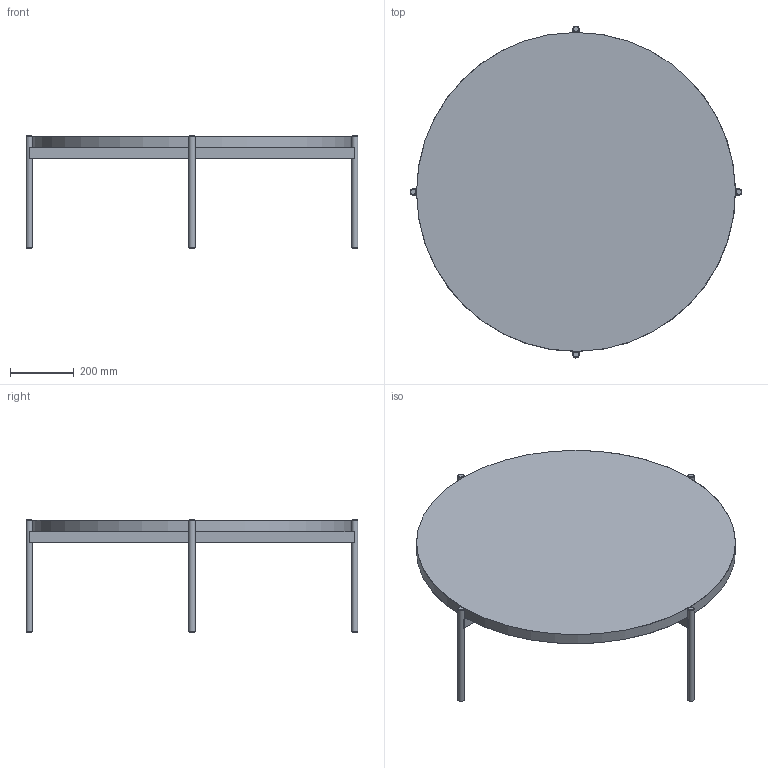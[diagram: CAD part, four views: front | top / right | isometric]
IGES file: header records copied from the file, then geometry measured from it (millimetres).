
Global section: file name: \\server2\Datos\PROYECTOS\2022\DOOS - Stand Feria H; native system: Rhinoceros ( Nov 10 2020 ); preprocessor: Trout Lake IGES 012 Nov 10 2020; date: 220818.060542; units: millimetre
Bounding box: 1040 x 1040 x 352 mm (x, y, z)
Surface area: 1998649.8 mm2 (no closed solid volume)
Topology: 0 solids, 0 shells, 35 faces, 131 edges, 118 vertices
Faces by surface type: bspline 35
